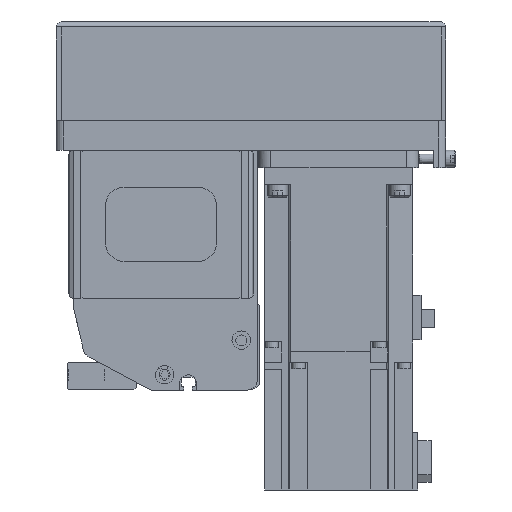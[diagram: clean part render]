
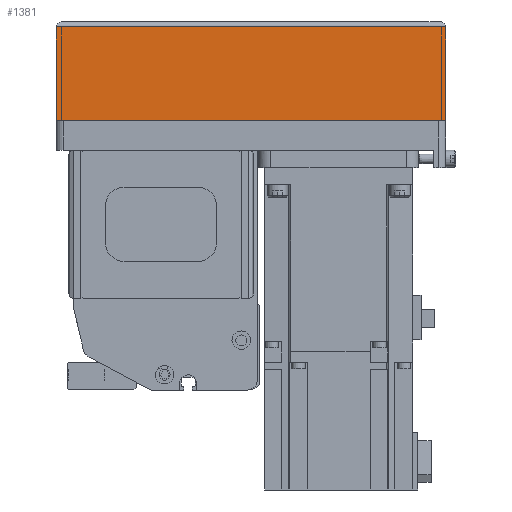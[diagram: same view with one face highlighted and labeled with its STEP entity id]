
A CAD part, left-side view. The second image highlights one B-rep face of the part: STEP entity #1381.
In plain terms, the highlighted planar face has unit normal (-1, 0, 0) as drawn and (0, -1, 0) by its records, which use the part's own axes.
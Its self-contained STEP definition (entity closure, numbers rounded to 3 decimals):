
#1381 = ADVANCED_FACE( '', ( #3672 ), #3673, .T. );
#3672 = FACE_OUTER_BOUND( '', #7227, .T. );
#3673 = PLANE( '', #7228 );
#7227 = EDGE_LOOP( '', ( #11162, #11163, #11164, #11165 ) );
#7228 = AXIS2_PLACEMENT_3D( '', #11166, #11167, #11168 );
#11162 = ORIENTED_EDGE( '', *, *, #19856, .F. );
#11163 = ORIENTED_EDGE( '', *, *, #20264, .F. );
#11164 = ORIENTED_EDGE( '', *, *, #20265, .T. );
#11165 = ORIENTED_EDGE( '', *, *, #20266, .T. );
#11166 = CARTESIAN_POINT( '', ( -158., -39., -12.1 ) );
#11167 = DIRECTION( '', ( 0., -1., 0. ) );
#11168 = DIRECTION( '', ( 0., 0., -1. ) );
#19856 = EDGE_CURVE( '', #23466, #23468, #23469, .T. );
#20264 = EDGE_CURVE( '', #24199, #23466, #24200, .T. );
#20265 = EDGE_CURVE( '', #24199, #24201, #24202, .T. );
#20266 = EDGE_CURVE( '', #24201, #23468, #24203, .T. );
#23466 = VERTEX_POINT( '', #28849 );
#23468 = VERTEX_POINT( '', #28852 );
#23469 = LINE( '', #28853, #28854 );
#24199 = VERTEX_POINT( '', #29965 );
#24200 = LINE( '', #29966, #29967 );
#24201 = VERTEX_POINT( '', #29968 );
#24202 = LINE( '', #29969, #29970 );
#24203 = LINE( '', #29971, #29972 );
#28849 = CARTESIAN_POINT( '', ( 0., -39., -12.1 ) );
#28852 = CARTESIAN_POINT( '', ( 0., -39., -50. ) );
#28853 = CARTESIAN_POINT( '', ( 0., -39., -12.1 ) );
#28854 = VECTOR( '', #37205, 1000. );
#29965 = CARTESIAN_POINT( '', ( -158., -39., -12.1 ) );
#29966 = CARTESIAN_POINT( '', ( -158., -39., -12.1 ) );
#29967 = VECTOR( '', #37753, 1000. );
#29968 = CARTESIAN_POINT( '', ( -158., -39., -50. ) );
#29969 = CARTESIAN_POINT( '', ( -158., -39., -12.1 ) );
#29970 = VECTOR( '', #37754, 1000. );
#29971 = CARTESIAN_POINT( '', ( -158., -39., -50. ) );
#29972 = VECTOR( '', #37755, 1000. );
#37205 = DIRECTION( '', ( 0., 0., -1. ) );
#37753 = DIRECTION( '', ( 1., 0., 0. ) );
#37754 = DIRECTION( '', ( 0., 0., -1. ) );
#37755 = DIRECTION( '', ( 1., 0., 0. ) );
